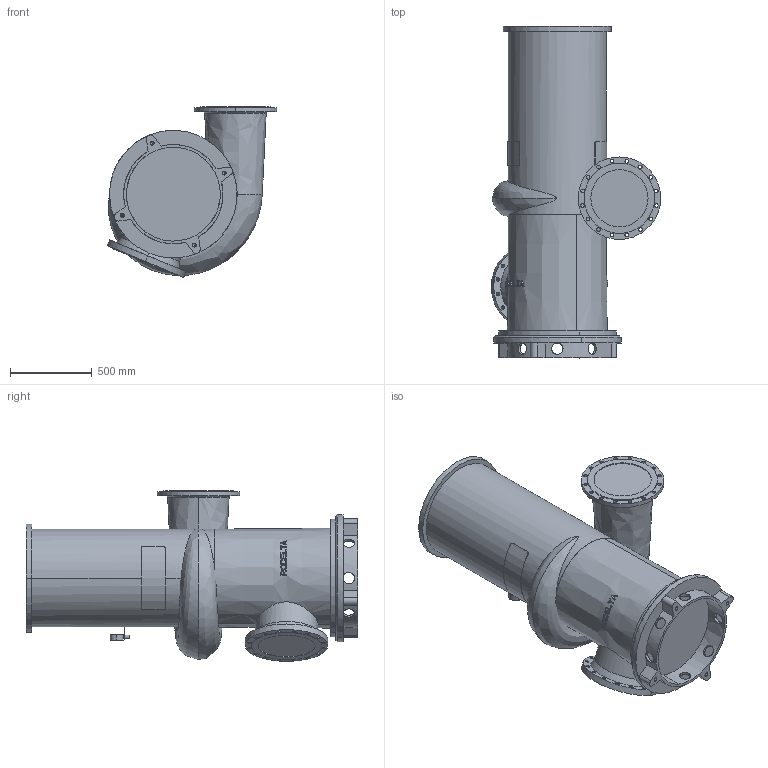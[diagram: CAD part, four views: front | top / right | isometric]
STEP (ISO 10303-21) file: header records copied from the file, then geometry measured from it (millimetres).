
FILE_DESCRIPTION((''),'2;1');
FILE_NAME('14-408_BLAD_ASM','2024-08-07T',('Lyritlocal'),(''),'PRO/ENGINEER BY PARAMETRIC TECHNOLOGY CORPORATION, 2016360','PRO/ENGINEER BY PARAMETRIC TECHNOLOGY CORPORATION, 2016360','');
FILE_SCHEMA(('CONFIG_CONTROL_DESIGN'));
Length unit declared in the file: millimetre
Products named in the file (3): 14-408; 14-408_VOET; 14-408_BLAD_ASM
Assembly tree (2 placements, depth 2):
  14-408_BLAD_ASM
    14-408
    14-408_VOET
Bounding box: 1036.46 x 2030 x 1043.68 mm (x, y, z)
Volume: 689139970.2 mm3; surface area: 7600964.2 mm2
Topology: 2 solids, 6 shells, 519 faces, 1412 edges, 930 vertices
Faces by surface type: plane 323, cylinder 154, cone 36, bspline 6
Entity records: 18592 total; most frequent: CARTESIAN_POINT 5752, ORIENTED_EDGE 2792, DIRECTION 2423, EDGE_CURVE 1404, AXIS2_PLACEMENT_3D 943, VERTEX_POINT 930, EDGE_LOOP 640, VECTOR 537
